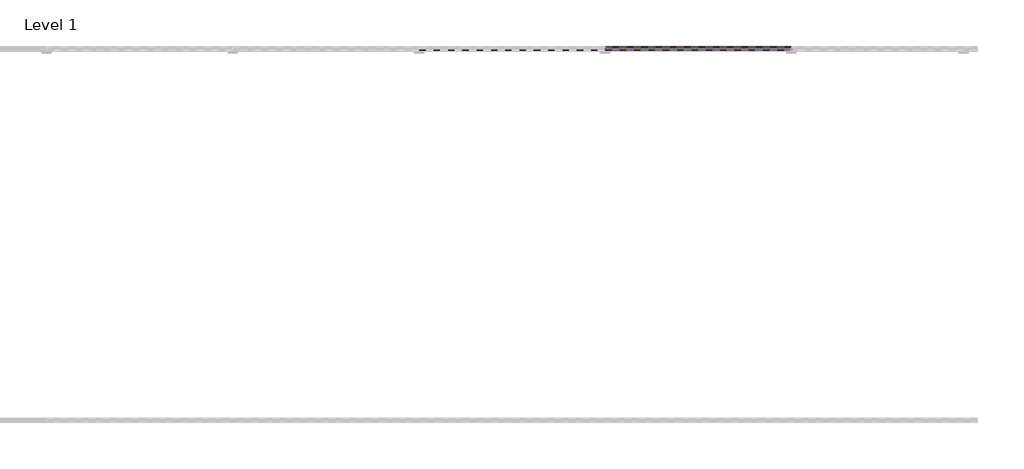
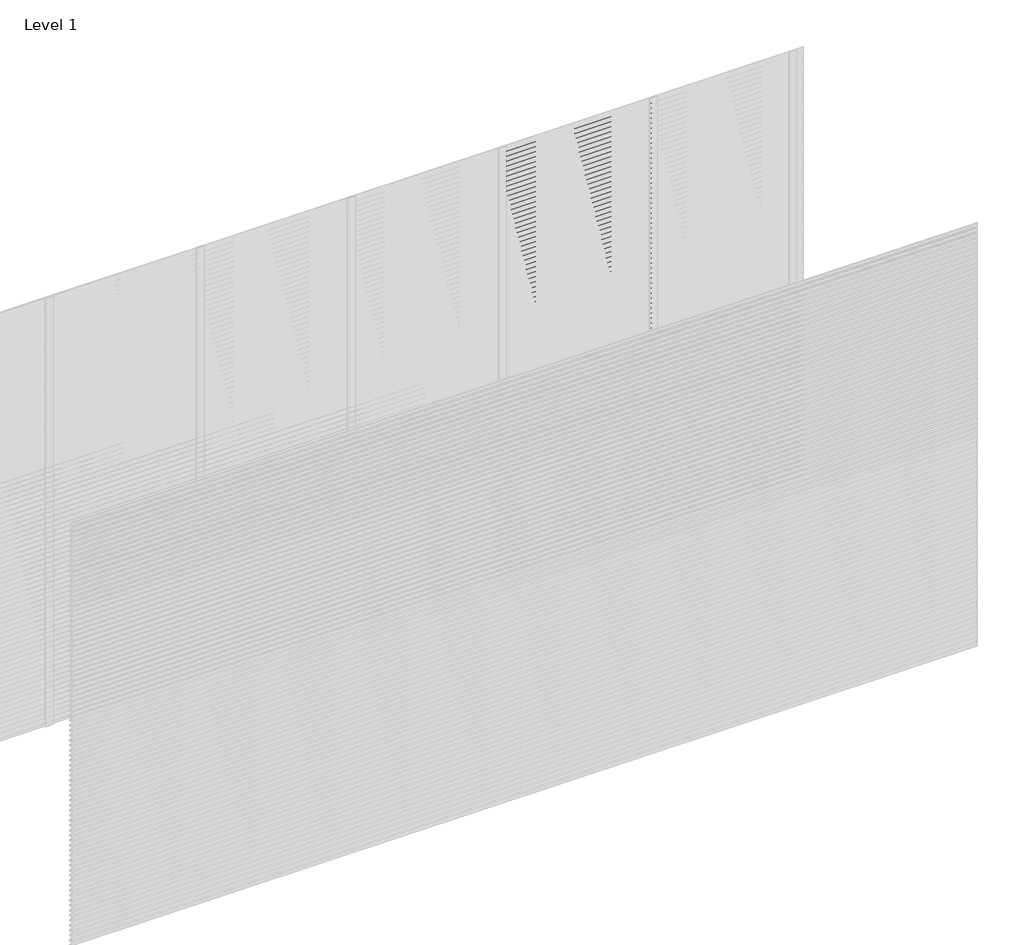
# One storey, part 24 of 25: 103 proxies.
"""IFC4 building model written with IfcOpenShell, lengths in millimetres."""

from ifc_helpers import new_model, si_unit, frame, origin, place, context, project, spatial, polyline, outline, extrude, element, save

model = new_model("IFC4")

# Units and contexts
model_context = context("Model", 3, world=origin())
ifc_project = project(units=[si_unit("LENGTHUNIT", "METRE", prefix="MILLI")], contexts=[model_context])

# Site, building, storey
site = spatial("IfcSite", under=ifc_project)
building = spatial("IfcBuilding", under=site)
storey = spatial("IfcBuildingStorey", under=building, Name="Level 1", Elevation=0.0)

# Proxies
placement = place(None, origin())
element("IfcBuildingElementProxy", 1, Name="Wall Sweeps", at=placement, inside=storey, context=model_context, shape_type="SweptSolid", body=[
    extrude(outline(polyline([(5.0, 1190.0), (5.0, 1178.942893), (24.0, 1163.0), (24.0, 1150.0), (3.0, 1167.6210923), (3.0, 1190.0), (5.0, 1190.0)])), frame((3000.0, 0.0, 0.0), z_axis=(1.0, 0.0, 0.0), x_axis=(0.0, 1.0, 0.0)), (0.0, 0.0, 1.0), 1000.0),
])
element("IfcBuildingElementProxy", 2, Name="Wall Sweeps", at=placement, inside=storey, context=model_context, shape_type="SweptSolid", body=[
    extrude(outline(polyline([(5.0, 1155.0), (5.0, 1143.942893), (24.0, 1128.0), (24.0, 1115.0), (3.0, 1132.6210923), (3.0, 1155.0), (5.0, 1155.0)])), frame((3000.0, 0.0, 0.0), z_axis=(1.0, 0.0, 0.0), x_axis=(0.0, 1.0, 0.0)), (0.0, 0.0, 1.0), 1000.0),
])
element("IfcBuildingElementProxy", 3, Name="Wall Sweeps", at=placement, inside=storey, context=model_context, shape_type="SweptSolid", body=[
    extrude(outline(polyline([(5.0, 1120.0), (5.0, 1108.942893), (24.0, 1093.0), (24.0, 1080.0), (3.0, 1097.6210923), (3.0, 1120.0), (5.0, 1120.0)])), frame((3000.0, 0.0, 0.0), z_axis=(1.0, 0.0, 0.0), x_axis=(0.0, 1.0, 0.0)), (0.0, 0.0, 1.0), 1000.0),
])
element("IfcBuildingElementProxy", 4, Name="Wall Sweeps", at=placement, inside=storey, context=model_context, shape_type="SweptSolid", body=[
    extrude(outline(polyline([(5.0, 1085.0), (5.0, 1073.942893), (24.0, 1058.0), (24.0, 1045.0), (3.0, 1062.6210923), (3.0, 1085.0), (5.0, 1085.0)])), frame((3000.0, 0.0, 0.0), z_axis=(1.0, 0.0, 0.0), x_axis=(0.0, 1.0, 0.0)), (0.0, 0.0, 1.0), 1000.0),
])
element("IfcBuildingElementProxy", 5, Name="Wall Sweeps", at=placement, inside=storey, context=model_context, shape_type="SweptSolid", body=[
    extrude(outline(polyline([(5.0, 1050.0), (5.0, 1038.942893), (24.0, 1023.0), (24.0, 1010.0), (3.0, 1027.6210923), (3.0, 1050.0), (5.0, 1050.0)])), frame((3000.0, 0.0, 0.0), z_axis=(1.0, 0.0, 0.0), x_axis=(0.0, 1.0, 0.0)), (0.0, 0.0, 1.0), 1000.0),
])
element("IfcBuildingElementProxy", 6, Name="Wall Sweeps", at=placement, inside=storey, context=model_context, shape_type="SweptSolid", body=[
    extrude(outline(polyline([(5.0, 1015.0), (5.0, 1003.942893), (24.0, 988.0), (24.0, 975.0), (3.0, 992.6210923), (3.0, 1015.0), (5.0, 1015.0)])), frame((3000.0, 0.0, 0.0), z_axis=(1.0, 0.0, 0.0), x_axis=(0.0, 1.0, 0.0)), (0.0, 0.0, 1.0), 1000.0),
])
element("IfcBuildingElementProxy", 7, Name="Wall Sweeps", at=placement, inside=storey, context=model_context, shape_type="SweptSolid", body=[
    extrude(outline(polyline([(5.0, 980.0), (5.0, 968.942893), (24.0, 953.0), (24.0, 940.0), (3.0, 957.6210923), (3.0, 980.0), (5.0, 980.0)])), frame((3000.0, 0.0, 0.0), z_axis=(1.0, 0.0, 0.0), x_axis=(0.0, 1.0, 0.0)), (0.0, 0.0, 1.0), 1000.0),
])
element("IfcBuildingElementProxy", 8, Name="Wall Sweeps", at=placement, inside=storey, context=model_context, shape_type="SweptSolid", body=[
    extrude(outline(polyline([(5.0, 945.0), (5.0, 933.942893), (24.0, 918.0), (24.0, 905.0), (3.0, 922.6210923), (3.0, 945.0), (5.0, 945.0)])), frame((3000.0, 0.0, 0.0), z_axis=(1.0, 0.0, 0.0), x_axis=(0.0, 1.0, 0.0)), (0.0, 0.0, 1.0), 1000.0),
])
element("IfcBuildingElementProxy", 9, Name="Wall Sweeps", at=placement, inside=storey, context=model_context, shape_type="SweptSolid", body=[
    extrude(outline(polyline([(5.0, 910.0), (5.0, 898.942893), (24.0, 883.0), (24.0, 870.0), (3.0, 887.6210923), (3.0, 910.0), (5.0, 910.0)])), frame((3000.0, 0.0, 0.0), z_axis=(1.0, 0.0, 0.0), x_axis=(0.0, 1.0, 0.0)), (0.0, 0.0, 1.0), 1000.0),
])
element("IfcBuildingElementProxy", 10, Name="Wall Sweeps", at=placement, inside=storey, context=model_context, shape_type="SweptSolid", body=[
    extrude(outline(polyline([(5.0, 875.0), (5.0, 863.942893), (24.0, 848.0), (24.0, 835.0), (3.0, 852.6210923), (3.0, 875.0), (5.0, 875.0)])), frame((3000.0, 0.0, 0.0), z_axis=(1.0, 0.0, 0.0), x_axis=(0.0, 1.0, 0.0)), (0.0, 0.0, 1.0), 1000.0),
])
element("IfcBuildingElementProxy", 11, Name="Wall Sweeps", at=placement, inside=storey, context=model_context, shape_type="SweptSolid", body=[
    extrude(outline(polyline([(5.0, 840.0), (5.0, 828.942893), (24.0, 813.0), (24.0, 800.0), (3.0, 817.6210923), (3.0, 840.0), (5.0, 840.0)])), frame((3000.0, 0.0, 0.0), z_axis=(1.0, 0.0, 0.0), x_axis=(0.0, 1.0, 0.0)), (0.0, 0.0, 1.0), 1000.0),
])
element("IfcBuildingElementProxy", 12, Name="Wall Sweeps", at=placement, inside=storey, context=model_context, shape_type="SweptSolid", body=[
    extrude(outline(polyline([(5.0, 805.0), (5.0, 793.942893), (24.0, 778.0), (24.0, 765.0), (3.0, 782.6210923), (3.0, 805.0), (5.0, 805.0)])), frame((3000.0, 0.0, 0.0), z_axis=(1.0, 0.0, 0.0), x_axis=(0.0, 1.0, 0.0)), (0.0, 0.0, 1.0), 1000.0),
])
element("IfcBuildingElementProxy", 13, Name="Wall Sweeps", at=placement, inside=storey, context=model_context, shape_type="SweptSolid", body=[
    extrude(outline(polyline([(5.0, 770.0), (5.0, 758.942893), (24.0, 743.0), (24.0, 730.0), (3.0, 747.6210923), (3.0, 770.0), (5.0, 770.0)])), frame((3000.0, 0.0, 0.0), z_axis=(1.0, 0.0, 0.0), x_axis=(0.0, 1.0, 0.0)), (0.0, 0.0, 1.0), 1000.0),
])
element("IfcBuildingElementProxy", 14, Name="Wall Sweeps", at=placement, inside=storey, context=model_context, shape_type="SweptSolid", body=[
    extrude(outline(polyline([(5.0, 735.0), (5.0, 723.942893), (24.0, 708.0), (24.0, 695.0), (3.0, 712.6210923), (3.0, 735.0), (5.0, 735.0)])), frame((3000.0, 0.0, 0.0), z_axis=(1.0, 0.0, 0.0), x_axis=(0.0, 1.0, 0.0)), (0.0, 0.0, 1.0), 1000.0),
])
element("IfcBuildingElementProxy", 15, Name="Wall Sweeps", at=placement, inside=storey, context=model_context, shape_type="SweptSolid", body=[
    extrude(outline(polyline([(5.0, 700.0), (5.0, 688.942893), (24.0, 673.0), (24.0, 660.0), (3.0, 677.6210923), (3.0, 700.0), (5.0, 700.0)])), frame((3000.0, 0.0, 0.0), z_axis=(1.0, 0.0, 0.0), x_axis=(0.0, 1.0, 0.0)), (0.0, 0.0, 1.0), 1000.0),
])
element("IfcBuildingElementProxy", 16, Name="Wall Sweeps", at=placement, inside=storey, context=model_context, shape_type="SweptSolid", body=[
    extrude(outline(polyline([(5.0, 665.0), (5.0, 653.942893), (24.0, 638.0), (24.0, 625.0), (3.0, 642.6210923), (3.0, 665.0), (5.0, 665.0)])), frame((3000.0, 0.0, 0.0), z_axis=(1.0, 0.0, 0.0), x_axis=(0.0, 1.0, 0.0)), (0.0, 0.0, 1.0), 1000.0),
])
element("IfcBuildingElementProxy", 17, Name="Wall Sweeps", at=placement, inside=storey, context=model_context, shape_type="SweptSolid", body=[
    extrude(outline(polyline([(5.0, 630.0), (5.0, 618.942893), (24.0, 603.0), (24.0, 590.0), (3.0, 607.6210923), (3.0, 630.0), (5.0, 630.0)])), frame((3000.0, 0.0, 0.0), z_axis=(1.0, 0.0, 0.0), x_axis=(0.0, 1.0, 0.0)), (0.0, 0.0, 1.0), 1000.0),
])
element("IfcBuildingElementProxy", 18, Name="Wall Sweeps", at=placement, inside=storey, context=model_context, shape_type="SweptSolid", body=[
    extrude(outline(polyline([(5.0, 595.0), (5.0, 583.942893), (24.0, 568.0), (24.0, 555.0), (3.0, 572.6210923), (3.0, 595.0), (5.0, 595.0)])), frame((3000.0, 0.0, 0.0), z_axis=(1.0, 0.0, 0.0), x_axis=(0.0, 1.0, 0.0)), (0.0, 0.0, 1.0), 1000.0),
])
element("IfcBuildingElementProxy", 19, Name="Wall Sweeps", at=placement, inside=storey, context=model_context, shape_type="SweptSolid", body=[
    extrude(outline(polyline([(5.0, 560.0), (5.0, 548.942893), (24.0, 533.0), (24.0, 520.0), (3.0, 537.6210923), (3.0, 560.0), (5.0, 560.0)])), frame((3000.0, 0.0, 0.0), z_axis=(1.0, 0.0, 0.0), x_axis=(0.0, 1.0, 0.0)), (0.0, 0.0, 1.0), 1000.0),
])
element("IfcBuildingElementProxy", 20, Name="Wall Sweeps", at=placement, inside=storey, context=model_context, shape_type="SweptSolid", body=[
    extrude(outline(polyline([(5.0, 525.0), (5.0, 513.942893), (24.0, 498.0), (24.0, 485.0), (3.0, 502.6210923), (3.0, 525.0), (5.0, 525.0)])), frame((3000.0, 0.0, 0.0), z_axis=(1.0, 0.0, 0.0), x_axis=(0.0, 1.0, 0.0)), (0.0, 0.0, 1.0), 1000.0),
])
element("IfcBuildingElementProxy", 21, Name="Wall Sweeps", at=placement, inside=storey, context=model_context, shape_type="SweptSolid", body=[
    extrude(outline(polyline([(5.0, 490.0), (5.0, 478.942893), (24.0, 463.0), (24.0, 450.0), (3.0, 467.6210923), (3.0, 490.0), (5.0, 490.0)])), frame((3000.0, 0.0, 0.0), z_axis=(1.0, 0.0, 0.0), x_axis=(0.0, 1.0, 0.0)), (0.0, 0.0, 1.0), 1000.0),
])
element("IfcBuildingElementProxy", 22, Name="Wall Sweeps", at=placement, inside=storey, context=model_context, shape_type="SweptSolid", body=[
    extrude(outline(polyline([(5.0, 455.0), (5.0, 443.942893), (24.0, 428.0), (24.0, 415.0), (3.0, 432.6210923), (3.0, 455.0), (5.0, 455.0)])), frame((3000.0, 0.0, 0.0), z_axis=(1.0, 0.0, 0.0), x_axis=(0.0, 1.0, 0.0)), (0.0, 0.0, 1.0), 1000.0),
])
element("IfcBuildingElementProxy", 23, Name="Wall Sweeps", at=placement, inside=storey, context=model_context, shape_type="SweptSolid", body=[
    extrude(outline(polyline([(5.0, 420.0), (5.0, 408.942893), (24.0, 393.0), (24.0, 380.0), (3.0, 397.6210923), (3.0, 420.0), (5.0, 420.0)])), frame((3000.0, 0.0, 0.0), z_axis=(1.0, 0.0, 0.0), x_axis=(0.0, 1.0, 0.0)), (0.0, 0.0, 1.0), 1000.0),
])
element("IfcBuildingElementProxy", 24, Name="Wall Sweeps", at=placement, inside=storey, context=model_context, shape_type="SweptSolid", body=[
    extrude(outline(polyline([(5.0, 385.0), (5.0, 373.942893), (24.0, 358.0), (24.0, 345.0), (3.0, 362.6210923), (3.0, 385.0), (5.0, 385.0)])), frame((3000.0, 0.0, 0.0), z_axis=(1.0, 0.0, 0.0), x_axis=(0.0, 1.0, 0.0)), (0.0, 0.0, 1.0), 1000.0),
])
element("IfcBuildingElementProxy", 25, Name="Wall Sweeps", at=placement, inside=storey, context=model_context, shape_type="SweptSolid", body=[
    extrude(outline(polyline([(5.0, 350.0), (5.0, 338.942893), (24.0, 323.0), (24.0, 310.0), (3.0, 327.6210923), (3.0, 350.0), (5.0, 350.0)])), frame((3000.0, 0.0, 0.0), z_axis=(1.0, 0.0, 0.0), x_axis=(0.0, 1.0, 0.0)), (0.0, 0.0, 1.0), 1000.0),
])
element("IfcBuildingElementProxy", 26, Name="Wall Sweeps", at=placement, inside=storey, context=model_context, shape_type="SweptSolid", body=[
    extrude(outline(polyline([(5.0, 315.0), (5.0, 303.942893), (24.0, 288.0), (24.0, 275.0), (3.0, 292.6210923), (3.0, 315.0), (5.0, 315.0)])), frame((3000.0, 0.0, 0.0), z_axis=(1.0, 0.0, 0.0), x_axis=(0.0, 1.0, 0.0)), (0.0, 0.0, 1.0), 1000.0),
])
element("IfcBuildingElementProxy", 27, Name="Wall Sweeps", at=placement, inside=storey, context=model_context, shape_type="SweptSolid", body=[
    extrude(outline(polyline([(5.0, 280.0), (5.0, 268.942893), (24.0, 253.0), (24.0, 240.0), (3.0, 257.6210923), (3.0, 280.0), (5.0, 280.0)])), frame((3000.0, 0.0, 0.0), z_axis=(1.0, 0.0, 0.0), x_axis=(0.0, 1.0, 0.0)), (0.0, 0.0, 1.0), 1000.0),
])
element("IfcBuildingElementProxy", 28, Name="Wall Sweeps", at=placement, inside=storey, context=model_context, shape_type="SweptSolid", body=[
    extrude(outline(polyline([(5.0, 245.0), (5.0, 233.942893), (24.0, 218.0), (24.0, 205.0), (3.0, 222.6210923), (3.0, 245.0), (5.0, 245.0)])), frame((3000.0, 0.0, 0.0), z_axis=(1.0, 0.0, 0.0), x_axis=(0.0, 1.0, 0.0)), (0.0, 0.0, 1.0), 1000.0),
])
element("IfcBuildingElementProxy", 29, Name="Wall Sweeps", at=placement, inside=storey, context=model_context, shape_type="SweptSolid", body=[
    extrude(outline(polyline([(5.0, 210.0), (5.0, 198.942893), (24.0, 183.0), (24.0, 170.0), (3.0, 187.6210923), (3.0, 210.0), (5.0, 210.0)])), frame((3000.0, 0.0, 0.0), z_axis=(1.0, 0.0, 0.0), x_axis=(0.0, 1.0, 0.0)), (0.0, 0.0, 1.0), 1000.0),
])
element("IfcBuildingElementProxy", 30, Name="Wall Sweeps", at=placement, inside=storey, context=model_context, shape_type="SweptSolid", body=[
    extrude(outline(polyline([(5.0, 175.0), (5.0, 163.942893), (24.0, 148.0), (24.0, 135.0), (3.0, 152.6210923), (3.0, 175.0), (5.0, 175.0)])), frame((3000.0, 0.0, 0.0), z_axis=(1.0, 0.0, 0.0), x_axis=(0.0, 1.0, 0.0)), (0.0, 0.0, 1.0), 1000.0),
])
element("IfcBuildingElementProxy", 31, Name="Wall Sweeps", at=placement, inside=storey, context=model_context, shape_type="SweptSolid", body=[
    extrude(outline(polyline([(5.0, 140.0), (5.0, 128.942893), (24.0, 113.0), (24.0, 100.0), (3.0, 117.6210923), (3.0, 140.0), (5.0, 140.0)])), frame((3000.0, 0.0, 0.0), z_axis=(1.0, 0.0, 0.0), x_axis=(0.0, 1.0, 0.0)), (0.0, 0.0, 1.0), 1000.0),
])
element("IfcBuildingElementProxy", 32, Name="Wall Sweeps", at=placement, inside=storey, context=model_context, shape_type="SweptSolid", body=[
    extrude(outline(polyline([(5.0, 105.0), (5.0, 93.942893), (24.0, 78.0), (24.0, 65.0), (3.0, 82.6210923), (3.0, 105.0), (5.0, 105.0)])), frame((3000.0, 0.0, 0.0), z_axis=(1.0, 0.0, 0.0), x_axis=(0.0, 1.0, 0.0)), (0.0, 0.0, 1.0), 1000.0),
])
element("IfcBuildingElementProxy", 33, Name="Wall Sweeps", at=placement, inside=storey, context=model_context, shape_type="SweptSolid", body=[
    extrude(outline(polyline([(5.0, 70.0), (5.0, 58.942893), (24.0, 43.0), (24.0, 30.0), (3.0, 47.6210923), (3.0, 70.0), (5.0, 70.0)])), frame((3000.0, 0.0, 0.0), z_axis=(1.0, 0.0, 0.0), x_axis=(0.0, 1.0, 0.0)), (0.0, 0.0, 1.0), 1000.0),
])
element("IfcBuildingElementProxy", 34, Name="Wall Sweeps", at=placement, inside=storey, context=model_context, shape_type="SweptSolid", body=[
    extrude(outline(polyline([(5.0, 35.0), (5.0, 23.942893), (24.0, 8.0), (24.0, -5.0), (3.0, 12.6210923), (3.0, 35.0), (5.0, 35.0)])), frame((3000.0, 0.0, 0.0), z_axis=(1.0, 0.0, 0.0), x_axis=(0.0, 1.0, 0.0)), (0.0, 0.0, 1.0), 1000.0),
])
element("IfcBuildingElementProxy", 35, Name="Wall Sweeps", at=placement, inside=storey, context=model_context, shape_type="SweptSolid", body=[
    extrude(outline(polyline([(5.0, 2975.0), (5.0, 2963.942893), (24.0, 2948.0), (24.0, 2935.0), (3.0, 2952.6210923), (3.0, 2975.0), (5.0, 2975.0)])), frame((4000.0, 0.0, 0.0), z_axis=(1.0, 0.0, 0.0), x_axis=(0.0, 1.0, 0.0)), (0.0, 0.0, 1.0), 1000.0),
])
element("IfcBuildingElementProxy", 36, Name="Wall Sweeps", at=placement, inside=storey, context=model_context, shape_type="SweptSolid", body=[
    extrude(outline(polyline([(5.0, 2940.0), (5.0, 2928.942893), (24.0, 2913.0), (24.0, 2900.0), (3.0, 2917.6210923), (3.0, 2940.0), (5.0, 2940.0)])), frame((4000.0, 0.0, 0.0), z_axis=(1.0, 0.0, 0.0), x_axis=(0.0, 1.0, 0.0)), (0.0, 0.0, 1.0), 1000.0),
])
element("IfcBuildingElementProxy", 37, Name="Wall Sweeps", at=placement, inside=storey, context=model_context, shape_type="SweptSolid", body=[
    extrude(outline(polyline([(5.0, 2905.0), (5.0, 2893.942893), (24.0, 2878.0), (24.0, 2865.0), (3.0, 2882.6210923), (3.0, 2905.0), (5.0, 2905.0)])), frame((4000.0, 0.0, 0.0), z_axis=(1.0, 0.0, 0.0), x_axis=(0.0, 1.0, 0.0)), (0.0, 0.0, 1.0), 1000.0),
])
element("IfcBuildingElementProxy", 38, Name="Wall Sweeps", at=placement, inside=storey, context=model_context, shape_type="SweptSolid", body=[
    extrude(outline(polyline([(5.0, 2870.0), (5.0, 2858.942893), (24.0, 2843.0), (24.0, 2830.0), (3.0, 2847.6210923), (3.0, 2870.0), (5.0, 2870.0)])), frame((4000.0, 0.0, 0.0), z_axis=(1.0, 0.0, 0.0), x_axis=(0.0, 1.0, 0.0)), (0.0, 0.0, 1.0), 1000.0),
])
element("IfcBuildingElementProxy", 39, Name="Wall Sweeps", at=placement, inside=storey, context=model_context, shape_type="SweptSolid", body=[
    extrude(outline(polyline([(5.0, 2835.0), (5.0, 2823.942893), (24.0, 2808.0), (24.0, 2795.0), (3.0, 2812.6210923), (3.0, 2835.0), (5.0, 2835.0)])), frame((4000.0, 0.0, 0.0), z_axis=(1.0, 0.0, 0.0), x_axis=(0.0, 1.0, 0.0)), (0.0, 0.0, 1.0), 1000.0),
])
element("IfcBuildingElementProxy", 40, Name="Wall Sweeps", at=placement, inside=storey, context=model_context, shape_type="SweptSolid", body=[
    extrude(outline(polyline([(5.0, 2800.0), (5.0, 2788.942893), (24.0, 2773.0), (24.0, 2760.0), (3.0, 2777.6210923), (3.0, 2800.0), (5.0, 2800.0)])), frame((4000.0, 0.0, 0.0), z_axis=(1.0, 0.0, 0.0), x_axis=(0.0, 1.0, 0.0)), (0.0, 0.0, 1.0), 1000.0),
])
element("IfcBuildingElementProxy", 41, Name="Wall Sweeps", at=placement, inside=storey, context=model_context, shape_type="SweptSolid", body=[
    extrude(outline(polyline([(5.0, 2765.0), (5.0, 2753.942893), (24.0, 2738.0), (24.0, 2725.0), (3.0, 2742.6210923), (3.0, 2765.0), (5.0, 2765.0)])), frame((4000.0, 0.0, 0.0), z_axis=(1.0, 0.0, 0.0), x_axis=(0.0, 1.0, 0.0)), (0.0, 0.0, 1.0), 1000.0),
])
element("IfcBuildingElementProxy", 42, Name="Wall Sweeps", at=placement, inside=storey, context=model_context, shape_type="SweptSolid", body=[
    extrude(outline(polyline([(5.0, 2730.0), (5.0, 2718.942893), (24.0, 2703.0), (24.0, 2690.0), (3.0, 2707.6210923), (3.0, 2730.0), (5.0, 2730.0)])), frame((4000.0, 0.0, 0.0), z_axis=(1.0, 0.0, 0.0), x_axis=(0.0, 1.0, 0.0)), (0.0, 0.0, 1.0), 1000.0),
])
element("IfcBuildingElementProxy", 43, Name="Wall Sweeps", at=placement, inside=storey, context=model_context, shape_type="SweptSolid", body=[
    extrude(outline(polyline([(5.0, 2695.0), (5.0, 2683.942893), (24.0, 2668.0), (24.0, 2655.0), (3.0, 2672.6210923), (3.0, 2695.0), (5.0, 2695.0)])), frame((4000.0, 0.0, 0.0), z_axis=(1.0, 0.0, 0.0), x_axis=(0.0, 1.0, 0.0)), (0.0, 0.0, 1.0), 1000.0),
])
element("IfcBuildingElementProxy", 44, Name="Wall Sweeps", at=placement, inside=storey, context=model_context, shape_type="SweptSolid", body=[
    extrude(outline(polyline([(5.0, 2660.0), (5.0, 2648.942893), (24.0, 2633.0), (24.0, 2620.0), (3.0, 2637.6210923), (3.0, 2660.0), (5.0, 2660.0)])), frame((4000.0, 0.0, 0.0), z_axis=(1.0, 0.0, 0.0), x_axis=(0.0, 1.0, 0.0)), (0.0, 0.0, 1.0), 1000.0),
])
element("IfcBuildingElementProxy", 45, Name="Wall Sweeps", at=placement, inside=storey, context=model_context, shape_type="SweptSolid", body=[
    extrude(outline(polyline([(5.0, 2625.0), (5.0, 2613.942893), (24.0, 2598.0), (24.0, 2585.0), (3.0, 2602.6210923), (3.0, 2625.0), (5.0, 2625.0)])), frame((4000.0, 0.0, 0.0), z_axis=(1.0, 0.0, 0.0), x_axis=(0.0, 1.0, 0.0)), (0.0, 0.0, 1.0), 1000.0),
])
element("IfcBuildingElementProxy", 46, Name="Wall Sweeps", at=placement, inside=storey, context=model_context, shape_type="SweptSolid", body=[
    extrude(outline(polyline([(5.0, 2590.0), (5.0, 2578.942893), (24.0, 2563.0), (24.0, 2550.0), (3.0, 2567.6210923), (3.0, 2590.0), (5.0, 2590.0)])), frame((4000.0, 0.0, 0.0), z_axis=(1.0, 0.0, 0.0), x_axis=(0.0, 1.0, 0.0)), (0.0, 0.0, 1.0), 1000.0),
])
element("IfcBuildingElementProxy", 47, Name="Wall Sweeps", at=placement, inside=storey, context=model_context, shape_type="SweptSolid", body=[
    extrude(outline(polyline([(5.0, 2555.0), (5.0, 2543.942893), (24.0, 2528.0), (24.0, 2515.0), (3.0, 2532.6210923), (3.0, 2555.0), (5.0, 2555.0)])), frame((4000.0, 0.0, 0.0), z_axis=(1.0, 0.0, 0.0), x_axis=(0.0, 1.0, 0.0)), (0.0, 0.0, 1.0), 1000.0),
])
element("IfcBuildingElementProxy", 48, Name="Wall Sweeps", at=placement, inside=storey, context=model_context, shape_type="SweptSolid", body=[
    extrude(outline(polyline([(5.0, 2520.0), (5.0, 2508.942893), (24.0, 2493.0), (24.0, 2480.0), (3.0, 2497.6210923), (3.0, 2520.0), (5.0, 2520.0)])), frame((4000.0, 0.0, 0.0), z_axis=(1.0, 0.0, 0.0), x_axis=(0.0, 1.0, 0.0)), (0.0, 0.0, 1.0), 1000.0),
])
element("IfcBuildingElementProxy", 49, Name="Wall Sweeps", at=placement, inside=storey, context=model_context, shape_type="SweptSolid", body=[
    extrude(outline(polyline([(5.0, 2485.0), (5.0, 2473.942893), (24.0, 2458.0), (24.0, 2445.0), (3.0, 2462.6210923), (3.0, 2485.0), (5.0, 2485.0)])), frame((4000.0, 0.0, 0.0), z_axis=(1.0, 0.0, 0.0), x_axis=(0.0, 1.0, 0.0)), (0.0, 0.0, 1.0), 1000.0),
])
element("IfcBuildingElementProxy", 50, Name="Wall Sweeps", at=placement, inside=storey, context=model_context, shape_type="SweptSolid", body=[
    extrude(outline(polyline([(5.0, 2450.0), (5.0, 2438.942893), (24.0, 2423.0), (24.0, 2410.0), (3.0, 2427.6210923), (3.0, 2450.0), (5.0, 2450.0)])), frame((4000.0, 0.0, 0.0), z_axis=(1.0, 0.0, 0.0), x_axis=(0.0, 1.0, 0.0)), (0.0, 0.0, 1.0), 1000.0),
])
element("IfcBuildingElementProxy", 51, Name="Wall Sweeps", at=placement, inside=storey, context=model_context, shape_type="SweptSolid", body=[
    extrude(outline(polyline([(5.0, 2415.0), (5.0, 2403.942893), (24.0, 2388.0), (24.0, 2375.0), (3.0, 2392.6210923), (3.0, 2415.0), (5.0, 2415.0)])), frame((4000.0, 0.0, 0.0), z_axis=(1.0, 0.0, 0.0), x_axis=(0.0, 1.0, 0.0)), (0.0, 0.0, 1.0), 1000.0),
])
element("IfcBuildingElementProxy", 52, Name="Wall Sweeps", at=placement, inside=storey, context=model_context, shape_type="SweptSolid", body=[
    extrude(outline(polyline([(5.0, 2380.0), (5.0, 2368.942893), (24.0, 2353.0), (24.0, 2340.0), (3.0, 2357.6210923), (3.0, 2380.0), (5.0, 2380.0)])), frame((4000.0, 0.0, 0.0), z_axis=(1.0, 0.0, 0.0), x_axis=(0.0, 1.0, 0.0)), (0.0, 0.0, 1.0), 1000.0),
])
element("IfcBuildingElementProxy", 53, Name="Wall Sweeps", at=placement, inside=storey, context=model_context, shape_type="SweptSolid", body=[
    extrude(outline(polyline([(5.0, 2345.0), (5.0, 2333.942893), (24.0, 2318.0), (24.0, 2305.0), (3.0, 2322.6210923), (3.0, 2345.0), (5.0, 2345.0)])), frame((4000.0, 0.0, 0.0), z_axis=(1.0, 0.0, 0.0), x_axis=(0.0, 1.0, 0.0)), (0.0, 0.0, 1.0), 1000.0),
])
element("IfcBuildingElementProxy", 54, Name="Wall Sweeps", at=placement, inside=storey, context=model_context, shape_type="SweptSolid", body=[
    extrude(outline(polyline([(5.0, 2310.0), (5.0, 2298.942893), (24.0, 2283.0), (24.0, 2270.0), (3.0, 2287.6210923), (3.0, 2310.0), (5.0, 2310.0)])), frame((4000.0, 0.0, 0.0), z_axis=(1.0, 0.0, 0.0), x_axis=(0.0, 1.0, 0.0)), (0.0, 0.0, 1.0), 1000.0),
])
element("IfcBuildingElementProxy", 55, Name="Wall Sweeps", at=placement, inside=storey, context=model_context, shape_type="SweptSolid", body=[
    extrude(outline(polyline([(5.0, 2275.0), (5.0, 2263.942893), (24.0, 2248.0), (24.0, 2235.0), (3.0, 2252.6210923), (3.0, 2275.0), (5.0, 2275.0)])), frame((4000.0, 0.0, 0.0), z_axis=(1.0, 0.0, 0.0), x_axis=(0.0, 1.0, 0.0)), (0.0, 0.0, 1.0), 1000.0),
])
element("IfcBuildingElementProxy", 56, Name="Wall Sweeps", at=placement, inside=storey, context=model_context, shape_type="SweptSolid", body=[
    extrude(outline(polyline([(5.0, 2240.0), (5.0, 2228.942893), (24.0, 2213.0), (24.0, 2200.0), (3.0, 2217.6210923), (3.0, 2240.0), (5.0, 2240.0)])), frame((4000.0, 0.0, 0.0), z_axis=(1.0, 0.0, 0.0), x_axis=(0.0, 1.0, 0.0)), (0.0, 0.0, 1.0), 1000.0),
])
element("IfcBuildingElementProxy", 57, Name="Wall Sweeps", at=placement, inside=storey, context=model_context, shape_type="SweptSolid", body=[
    extrude(outline(polyline([(5.0, 2205.0), (5.0, 2193.942893), (24.0, 2178.0), (24.0, 2165.0), (3.0, 2182.6210923), (3.0, 2205.0), (5.0, 2205.0)])), frame((4000.0, 0.0, 0.0), z_axis=(1.0, 0.0, 0.0), x_axis=(0.0, 1.0, 0.0)), (0.0, 0.0, 1.0), 1000.0),
])
element("IfcBuildingElementProxy", 58, Name="Wall Sweeps", at=placement, inside=storey, context=model_context, shape_type="SweptSolid", body=[
    extrude(outline(polyline([(5.0, 2170.0), (5.0, 2158.942893), (24.0, 2143.0), (24.0, 2130.0), (3.0, 2147.6210923), (3.0, 2170.0), (5.0, 2170.0)])), frame((4000.0, 0.0, 0.0), z_axis=(1.0, 0.0, 0.0), x_axis=(0.0, 1.0, 0.0)), (0.0, 0.0, 1.0), 1000.0),
])
element("IfcBuildingElementProxy", 59, Name="Wall Sweeps", at=placement, inside=storey, context=model_context, shape_type="SweptSolid", body=[
    extrude(outline(polyline([(5.0, 2135.0), (5.0, 2123.942893), (24.0, 2108.0), (24.0, 2095.0), (3.0, 2112.6210923), (3.0, 2135.0), (5.0, 2135.0)])), frame((4000.0, 0.0, 0.0), z_axis=(1.0, 0.0, 0.0), x_axis=(0.0, 1.0, 0.0)), (0.0, 0.0, 1.0), 1000.0),
])
element("IfcBuildingElementProxy", 60, Name="Wall Sweeps", at=placement, inside=storey, context=model_context, shape_type="SweptSolid", body=[
    extrude(outline(polyline([(5.0, 2100.0), (5.0, 2088.942893), (24.0, 2073.0), (24.0, 2060.0), (3.0, 2077.6210923), (3.0, 2100.0), (5.0, 2100.0)])), frame((4000.0, 0.0, 0.0), z_axis=(1.0, 0.0, 0.0), x_axis=(0.0, 1.0, 0.0)), (0.0, 0.0, 1.0), 1000.0),
])
element("IfcBuildingElementProxy", 61, Name="Wall Sweeps", at=placement, inside=storey, context=model_context, shape_type="SweptSolid", body=[
    extrude(outline(polyline([(5.0, 2065.0), (5.0, 2053.942893), (24.0, 2038.0), (24.0, 2025.0), (3.0, 2042.6210923), (3.0, 2065.0), (5.0, 2065.0)])), frame((4000.0, 0.0, 0.0), z_axis=(1.0, 0.0, 0.0), x_axis=(0.0, 1.0, 0.0)), (0.0, 0.0, 1.0), 1000.0),
])
element("IfcBuildingElementProxy", 62, Name="Wall Sweeps", at=placement, inside=storey, context=model_context, shape_type="SweptSolid", body=[
    extrude(outline(polyline([(5.0, 2030.0), (5.0, 2018.942893), (24.0, 2003.0), (24.0, 1990.0), (3.0, 2007.6210923), (3.0, 2030.0), (5.0, 2030.0)])), frame((4000.0, 0.0, 0.0), z_axis=(1.0, 0.0, 0.0), x_axis=(0.0, 1.0, 0.0)), (0.0, 0.0, 1.0), 1000.0),
])
element("IfcBuildingElementProxy", 63, Name="Wall Sweeps", at=placement, inside=storey, context=model_context, shape_type="SweptSolid", body=[
    extrude(outline(polyline([(5.0, 1995.0), (5.0, 1983.942893), (24.0, 1968.0), (24.0, 1955.0), (3.0, 1972.6210923), (3.0, 1995.0), (5.0, 1995.0)])), frame((4000.0, 0.0, 0.0), z_axis=(1.0, 0.0, 0.0), x_axis=(0.0, 1.0, 0.0)), (0.0, 0.0, 1.0), 1000.0),
])
element("IfcBuildingElementProxy", 64, Name="Wall Sweeps", at=placement, inside=storey, context=model_context, shape_type="SweptSolid", body=[
    extrude(outline(polyline([(5.0, 1960.0), (5.0, 1948.942893), (24.0, 1933.0), (24.0, 1920.0), (3.0, 1937.6210923), (3.0, 1960.0), (5.0, 1960.0)])), frame((4000.0, 0.0, 0.0), z_axis=(1.0, 0.0, 0.0), x_axis=(0.0, 1.0, 0.0)), (0.0, 0.0, 1.0), 1000.0),
])
element("IfcBuildingElementProxy", 65, Name="Wall Sweeps", at=placement, inside=storey, context=model_context, shape_type="SweptSolid", body=[
    extrude(outline(polyline([(5.0, 1925.0), (5.0, 1913.942893), (24.0, 1898.0), (24.0, 1885.0), (3.0, 1902.6210923), (3.0, 1925.0), (5.0, 1925.0)])), frame((4000.0, 0.0, 0.0), z_axis=(1.0, 0.0, 0.0), x_axis=(0.0, 1.0, 0.0)), (0.0, 0.0, 1.0), 1000.0),
])
element("IfcBuildingElementProxy", 66, Name="Wall Sweeps", at=placement, inside=storey, context=model_context, shape_type="SweptSolid", body=[
    extrude(outline(polyline([(5.0, 1890.0), (5.0, 1878.942893), (24.0, 1863.0), (24.0, 1850.0), (3.0, 1867.6210923), (3.0, 1890.0), (5.0, 1890.0)])), frame((4000.0, 0.0, 0.0), z_axis=(1.0, 0.0, 0.0), x_axis=(0.0, 1.0, 0.0)), (0.0, 0.0, 1.0), 1000.0),
])
element("IfcBuildingElementProxy", 67, Name="Wall Sweeps", at=placement, inside=storey, context=model_context, shape_type="SweptSolid", body=[
    extrude(outline(polyline([(5.0, 1855.0), (5.0, 1843.942893), (24.0, 1828.0), (24.0, 1815.0), (3.0, 1832.6210923), (3.0, 1855.0), (5.0, 1855.0)])), frame((4000.0, 0.0, 0.0), z_axis=(1.0, 0.0, 0.0), x_axis=(0.0, 1.0, 0.0)), (0.0, 0.0, 1.0), 1000.0),
])
element("IfcBuildingElementProxy", 68, Name="Wall Sweeps", at=placement, inside=storey, context=model_context, shape_type="SweptSolid", body=[
    extrude(outline(polyline([(5.0, 1820.0), (5.0, 1808.942893), (24.0, 1793.0), (24.0, 1780.0), (3.0, 1797.6210923), (3.0, 1820.0), (5.0, 1820.0)])), frame((4000.0, 0.0, 0.0), z_axis=(1.0, 0.0, 0.0), x_axis=(0.0, 1.0, 0.0)), (0.0, 0.0, 1.0), 1000.0),
])
element("IfcBuildingElementProxy", 69, Name="Wall Sweeps", at=placement, inside=storey, context=model_context, shape_type="SweptSolid", body=[
    extrude(outline(polyline([(5.0, 1785.0), (5.0, 1773.942893), (24.0, 1758.0), (24.0, 1745.0), (3.0, 1762.6210923), (3.0, 1785.0), (5.0, 1785.0)])), frame((4000.0, 0.0, 0.0), z_axis=(1.0, 0.0, 0.0), x_axis=(0.0, 1.0, 0.0)), (0.0, 0.0, 1.0), 1000.0),
])
element("IfcBuildingElementProxy", 70, Name="Wall Sweeps", at=placement, inside=storey, context=model_context, shape_type="SweptSolid", body=[
    extrude(outline(polyline([(5.0, 1750.0), (5.0, 1738.942893), (24.0, 1723.0), (24.0, 1710.0), (3.0, 1727.6210923), (3.0, 1750.0), (5.0, 1750.0)])), frame((4000.0, 0.0, 0.0), z_axis=(1.0, 0.0, 0.0), x_axis=(0.0, 1.0, 0.0)), (0.0, 0.0, 1.0), 1000.0),
])
element("IfcBuildingElementProxy", 71, Name="Wall Sweeps", at=placement, inside=storey, context=model_context, shape_type="SweptSolid", body=[
    extrude(outline(polyline([(5.0, 1715.0), (5.0, 1703.942893), (24.0, 1688.0), (24.0, 1675.0), (3.0, 1692.6210923), (3.0, 1715.0), (5.0, 1715.0)])), frame((4000.0, 0.0, 0.0), z_axis=(1.0, 0.0, 0.0), x_axis=(0.0, 1.0, 0.0)), (0.0, 0.0, 1.0), 1000.0),
])
element("IfcBuildingElementProxy", 72, Name="Wall Sweeps", at=placement, inside=storey, context=model_context, shape_type="SweptSolid", body=[
    extrude(outline(polyline([(5.0, 1680.0), (5.0, 1668.942893), (24.0, 1653.0), (24.0, 1640.0), (3.0, 1657.6210923), (3.0, 1680.0), (5.0, 1680.0)])), frame((4000.0, 0.0, 0.0), z_axis=(1.0, 0.0, 0.0), x_axis=(0.0, 1.0, 0.0)), (0.0, 0.0, 1.0), 1000.0),
])
element("IfcBuildingElementProxy", 73, Name="Wall Sweeps", at=placement, inside=storey, context=model_context, shape_type="SweptSolid", body=[
    extrude(outline(polyline([(5.0, 1645.0), (5.0, 1633.942893), (24.0, 1618.0), (24.0, 1605.0), (3.0, 1622.6210923), (3.0, 1645.0), (5.0, 1645.0)])), frame((4000.0, 0.0, 0.0), z_axis=(1.0, 0.0, 0.0), x_axis=(0.0, 1.0, 0.0)), (0.0, 0.0, 1.0), 1000.0),
])
element("IfcBuildingElementProxy", 74, Name="Wall Sweeps", at=placement, inside=storey, context=model_context, shape_type="SweptSolid", body=[
    extrude(outline(polyline([(5.0, 1610.0), (5.0, 1598.942893), (24.0, 1583.0), (24.0, 1570.0), (3.0, 1587.6210923), (3.0, 1610.0), (5.0, 1610.0)])), frame((4000.0, 0.0, 0.0), z_axis=(1.0, 0.0, 0.0), x_axis=(0.0, 1.0, 0.0)), (0.0, 0.0, 1.0), 1000.0),
])
element("IfcBuildingElementProxy", 75, Name="Wall Sweeps", at=placement, inside=storey, context=model_context, shape_type="SweptSolid", body=[
    extrude(outline(polyline([(5.0, 1575.0), (5.0, 1563.942893), (24.0, 1548.0), (24.0, 1535.0), (3.0, 1552.6210923), (3.0, 1575.0), (5.0, 1575.0)])), frame((4000.0, 0.0, 0.0), z_axis=(1.0, 0.0, 0.0), x_axis=(0.0, 1.0, 0.0)), (0.0, 0.0, 1.0), 1000.0),
])
element("IfcBuildingElementProxy", 76, Name="Wall Sweeps", at=placement, inside=storey, context=model_context, shape_type="SweptSolid", body=[
    extrude(outline(polyline([(5.0, 1540.0), (5.0, 1528.942893), (24.0, 1513.0), (24.0, 1500.0), (3.0, 1517.6210923), (3.0, 1540.0), (5.0, 1540.0)])), frame((4000.0, 0.0, 0.0), z_axis=(1.0, 0.0, 0.0), x_axis=(0.0, 1.0, 0.0)), (0.0, 0.0, 1.0), 1000.0),
])
element("IfcBuildingElementProxy", 77, Name="Wall Sweeps", at=placement, inside=storey, context=model_context, shape_type="SweptSolid", body=[
    extrude(outline(polyline([(5.0, 1505.0), (5.0, 1493.942893), (24.0, 1478.0), (24.0, 1465.0), (3.0, 1482.6210923), (3.0, 1505.0), (5.0, 1505.0)])), frame((4000.0, 0.0, 0.0), z_axis=(1.0, 0.0, 0.0), x_axis=(0.0, 1.0, 0.0)), (0.0, 0.0, 1.0), 1000.0),
])
element("IfcBuildingElementProxy", 78, Name="Wall Sweeps", at=placement, inside=storey, context=model_context, shape_type="SweptSolid", body=[
    extrude(outline(polyline([(5.0, 1470.0), (5.0, 1458.942893), (24.0, 1443.0), (24.0, 1430.0), (3.0, 1447.6210923), (3.0, 1470.0), (5.0, 1470.0)])), frame((4000.0, 0.0, 0.0), z_axis=(1.0, 0.0, 0.0), x_axis=(0.0, 1.0, 0.0)), (0.0, 0.0, 1.0), 1000.0),
])
element("IfcBuildingElementProxy", 79, Name="Wall Sweeps", at=placement, inside=storey, context=model_context, shape_type="SweptSolid", body=[
    extrude(outline(polyline([(5.0, 1435.0), (5.0, 1423.942893), (24.0, 1408.0), (24.0, 1395.0), (3.0, 1412.6210923), (3.0, 1435.0), (5.0, 1435.0)])), frame((4000.0, 0.0, 0.0), z_axis=(1.0, 0.0, 0.0), x_axis=(0.0, 1.0, 0.0)), (0.0, 0.0, 1.0), 1000.0),
])
element("IfcBuildingElementProxy", 80, Name="Wall Sweeps", at=placement, inside=storey, context=model_context, shape_type="SweptSolid", body=[
    extrude(outline(polyline([(5.0, 1400.0), (5.0, 1388.942893), (24.0, 1373.0), (24.0, 1360.0), (3.0, 1377.6210923), (3.0, 1400.0), (5.0, 1400.0)])), frame((4000.0, 0.0, 0.0), z_axis=(1.0, 0.0, 0.0), x_axis=(0.0, 1.0, 0.0)), (0.0, 0.0, 1.0), 1000.0),
])
element("IfcBuildingElementProxy", 81, Name="Wall Sweeps", at=placement, inside=storey, context=model_context, shape_type="SweptSolid", body=[
    extrude(outline(polyline([(5.0, 1365.0), (5.0, 1353.942893), (24.0, 1338.0), (24.0, 1325.0), (3.0, 1342.6210923), (3.0, 1365.0), (5.0, 1365.0)])), frame((4000.0, 0.0, 0.0), z_axis=(1.0, 0.0, 0.0), x_axis=(0.0, 1.0, 0.0)), (0.0, 0.0, 1.0), 1000.0),
])
element("IfcBuildingElementProxy", 82, Name="Wall Sweeps", at=placement, inside=storey, context=model_context, shape_type="SweptSolid", body=[
    extrude(outline(polyline([(5.0, 1330.0), (5.0, 1318.942893), (24.0, 1303.0), (24.0, 1290.0), (3.0, 1307.6210923), (3.0, 1330.0), (5.0, 1330.0)])), frame((4000.0, 0.0, 0.0), z_axis=(1.0, 0.0, 0.0), x_axis=(0.0, 1.0, 0.0)), (0.0, 0.0, 1.0), 1000.0),
])
element("IfcBuildingElementProxy", 83, Name="Wall Sweeps", at=placement, inside=storey, context=model_context, shape_type="SweptSolid", body=[
    extrude(outline(polyline([(5.0, 1295.0), (5.0, 1283.942893), (24.0, 1268.0), (24.0, 1255.0), (3.0, 1272.6210923), (3.0, 1295.0), (5.0, 1295.0)])), frame((4000.0, 0.0, 0.0), z_axis=(1.0, 0.0, 0.0), x_axis=(0.0, 1.0, 0.0)), (0.0, 0.0, 1.0), 1000.0),
])
element("IfcBuildingElementProxy", 84, Name="Wall Sweeps", at=placement, inside=storey, context=model_context, shape_type="SweptSolid", body=[
    extrude(outline(polyline([(5.0, 1260.0), (5.0, 1248.942893), (24.0, 1233.0), (24.0, 1220.0), (3.0, 1237.6210923), (3.0, 1260.0), (5.0, 1260.0)])), frame((4000.0, 0.0, 0.0), z_axis=(1.0, 0.0, 0.0), x_axis=(0.0, 1.0, 0.0)), (0.0, 0.0, 1.0), 1000.0),
])
element("IfcBuildingElementProxy", 85, Name="Wall Sweeps", at=placement, inside=storey, context=model_context, shape_type="SweptSolid", body=[
    extrude(outline(polyline([(5.0, 1225.0), (5.0, 1213.942893), (24.0, 1198.0), (24.0, 1185.0), (3.0, 1202.6210923), (3.0, 1225.0), (5.0, 1225.0)])), frame((4000.0, 0.0, 0.0), z_axis=(1.0, 0.0, 0.0), x_axis=(0.0, 1.0, 0.0)), (0.0, 0.0, 1.0), 1000.0),
])
element("IfcBuildingElementProxy", 86, Name="Wall Sweeps", at=placement, inside=storey, context=model_context, shape_type="SweptSolid", body=[
    extrude(outline(polyline([(5.0, 1190.0), (5.0, 1178.942893), (24.0, 1163.0), (24.0, 1150.0), (3.0, 1167.6210923), (3.0, 1190.0), (5.0, 1190.0)])), frame((4000.0, 0.0, 0.0), z_axis=(1.0, 0.0, 0.0), x_axis=(0.0, 1.0, 0.0)), (0.0, 0.0, 1.0), 1000.0),
])
element("IfcBuildingElementProxy", 87, Name="Wall Sweeps", at=placement, inside=storey, context=model_context, shape_type="SweptSolid", body=[
    extrude(outline(polyline([(5.0, 1155.0), (5.0, 1143.942893), (24.0, 1128.0), (24.0, 1115.0), (3.0, 1132.6210923), (3.0, 1155.0), (5.0, 1155.0)])), frame((4000.0, 0.0, 0.0), z_axis=(1.0, 0.0, 0.0), x_axis=(0.0, 1.0, 0.0)), (0.0, 0.0, 1.0), 1000.0),
])
element("IfcBuildingElementProxy", 88, Name="Wall Sweeps", at=placement, inside=storey, context=model_context, shape_type="SweptSolid", body=[
    extrude(outline(polyline([(5.0, 1120.0), (5.0, 1108.942893), (24.0, 1093.0), (24.0, 1080.0), (3.0, 1097.6210923), (3.0, 1120.0), (5.0, 1120.0)])), frame((4000.0, 0.0, 0.0), z_axis=(1.0, 0.0, 0.0), x_axis=(0.0, 1.0, 0.0)), (0.0, 0.0, 1.0), 1000.0),
])
element("IfcBuildingElementProxy", 89, Name="Wall Sweeps", at=placement, inside=storey, context=model_context, shape_type="SweptSolid", body=[
    extrude(outline(polyline([(5.0, 1085.0), (5.0, 1073.942893), (24.0, 1058.0), (24.0, 1045.0), (3.0, 1062.6210923), (3.0, 1085.0), (5.0, 1085.0)])), frame((4000.0, 0.0, 0.0), z_axis=(1.0, 0.0, 0.0), x_axis=(0.0, 1.0, 0.0)), (0.0, 0.0, 1.0), 1000.0),
])
element("IfcBuildingElementProxy", 90, Name="Wall Sweeps", at=placement, inside=storey, context=model_context, shape_type="SweptSolid", body=[
    extrude(outline(polyline([(5.0, 1050.0), (5.0, 1038.942893), (24.0, 1023.0), (24.0, 1010.0), (3.0, 1027.6210923), (3.0, 1050.0), (5.0, 1050.0)])), frame((4000.0, 0.0, 0.0), z_axis=(1.0, 0.0, 0.0), x_axis=(0.0, 1.0, 0.0)), (0.0, 0.0, 1.0), 1000.0),
])
element("IfcBuildingElementProxy", 91, Name="Wall Sweeps", at=placement, inside=storey, context=model_context, shape_type="SweptSolid", body=[
    extrude(outline(polyline([(5.0, 1015.0), (5.0, 1003.942893), (24.0, 988.0), (24.0, 975.0), (3.0, 992.6210923), (3.0, 1015.0), (5.0, 1015.0)])), frame((4000.0, 0.0, 0.0), z_axis=(1.0, 0.0, 0.0), x_axis=(0.0, 1.0, 0.0)), (0.0, 0.0, 1.0), 1000.0),
])
element("IfcBuildingElementProxy", 92, Name="Wall Sweeps", at=placement, inside=storey, context=model_context, shape_type="SweptSolid", body=[
    extrude(outline(polyline([(5.0, 980.0), (5.0, 968.942893), (24.0, 953.0), (24.0, 940.0), (3.0, 957.6210923), (3.0, 980.0), (5.0, 980.0)])), frame((4000.0, 0.0, 0.0), z_axis=(1.0, 0.0, 0.0), x_axis=(0.0, 1.0, 0.0)), (0.0, 0.0, 1.0), 1000.0),
])
element("IfcBuildingElementProxy", 93, Name="Wall Sweeps", at=placement, inside=storey, context=model_context, shape_type="SweptSolid", body=[
    extrude(outline(polyline([(5.0, 945.0), (5.0, 933.942893), (24.0, 918.0), (24.0, 905.0), (3.0, 922.6210923), (3.0, 945.0), (5.0, 945.0)])), frame((4000.0, 0.0, 0.0), z_axis=(1.0, 0.0, 0.0), x_axis=(0.0, 1.0, 0.0)), (0.0, 0.0, 1.0), 1000.0),
])
element("IfcBuildingElementProxy", 94, Name="Wall Sweeps", at=placement, inside=storey, context=model_context, shape_type="SweptSolid", body=[
    extrude(outline(polyline([(5.0, 910.0), (5.0, 898.942893), (24.0, 883.0), (24.0, 870.0), (3.0, 887.6210923), (3.0, 910.0), (5.0, 910.0)])), frame((4000.0, 0.0, 0.0), z_axis=(1.0, 0.0, 0.0), x_axis=(0.0, 1.0, 0.0)), (0.0, 0.0, 1.0), 1000.0),
])
element("IfcBuildingElementProxy", 95, Name="Wall Sweeps", at=placement, inside=storey, context=model_context, shape_type="SweptSolid", body=[
    extrude(outline(polyline([(5.0, 875.0), (5.0, 863.942893), (24.0, 848.0), (24.0, 835.0), (3.0, 852.6210923), (3.0, 875.0), (5.0, 875.0)])), frame((4000.0, 0.0, 0.0), z_axis=(1.0, 0.0, 0.0), x_axis=(0.0, 1.0, 0.0)), (0.0, 0.0, 1.0), 1000.0),
])
element("IfcBuildingElementProxy", 96, Name="Wall Sweeps", at=placement, inside=storey, context=model_context, shape_type="SweptSolid", body=[
    extrude(outline(polyline([(5.0, 840.0), (5.0, 828.942893), (24.0, 813.0), (24.0, 800.0), (3.0, 817.6210923), (3.0, 840.0), (5.0, 840.0)])), frame((4000.0, 0.0, 0.0), z_axis=(1.0, 0.0, 0.0), x_axis=(0.0, 1.0, 0.0)), (0.0, 0.0, 1.0), 1000.0),
])
element("IfcBuildingElementProxy", 97, Name="Wall Sweeps", at=placement, inside=storey, context=model_context, shape_type="SweptSolid", body=[
    extrude(outline(polyline([(5.0, 805.0), (5.0, 793.942893), (24.0, 778.0), (24.0, 765.0), (3.0, 782.6210923), (3.0, 805.0), (5.0, 805.0)])), frame((4000.0, 0.0, 0.0), z_axis=(1.0, 0.0, 0.0), x_axis=(0.0, 1.0, 0.0)), (0.0, 0.0, 1.0), 1000.0),
])
element("IfcBuildingElementProxy", 98, Name="Wall Sweeps", at=placement, inside=storey, context=model_context, shape_type="SweptSolid", body=[
    extrude(outline(polyline([(5.0, 770.0), (5.0, 758.942893), (24.0, 743.0), (24.0, 730.0), (3.0, 747.6210923), (3.0, 770.0), (5.0, 770.0)])), frame((4000.0, 0.0, 0.0), z_axis=(1.0, 0.0, 0.0), x_axis=(0.0, 1.0, 0.0)), (0.0, 0.0, 1.0), 1000.0),
])
element("IfcBuildingElementProxy", 99, Name="Wall Sweeps", at=placement, inside=storey, context=model_context, shape_type="SweptSolid", body=[
    extrude(outline(polyline([(5.0, 735.0), (5.0, 723.942893), (24.0, 708.0), (24.0, 695.0), (3.0, 712.6210923), (3.0, 735.0), (5.0, 735.0)])), frame((4000.0, 0.0, 0.0), z_axis=(1.0, 0.0, 0.0), x_axis=(0.0, 1.0, 0.0)), (0.0, 0.0, 1.0), 1000.0),
])
element("IfcBuildingElementProxy", 100, Name="Wall Sweeps", at=placement, inside=storey, context=model_context, shape_type="SweptSolid", body=[
    extrude(outline(polyline([(5.0, 700.0), (5.0, 688.942893), (24.0, 673.0), (24.0, 660.0), (3.0, 677.6210923), (3.0, 700.0), (5.0, 700.0)])), frame((4000.0, 0.0, 0.0), z_axis=(1.0, 0.0, 0.0), x_axis=(0.0, 1.0, 0.0)), (0.0, 0.0, 1.0), 1000.0),
])
element("IfcBuildingElementProxy", 101, Name="Wall Sweeps", at=placement, inside=storey, context=model_context, shape_type="SweptSolid", body=[
    extrude(outline(polyline([(5.0, 665.0), (5.0, 653.942893), (24.0, 638.0), (24.0, 625.0), (3.0, 642.6210923), (3.0, 665.0), (5.0, 665.0)])), frame((4000.0, 0.0, 0.0), z_axis=(1.0, 0.0, 0.0), x_axis=(0.0, 1.0, 0.0)), (0.0, 0.0, 1.0), 1000.0),
])
element("IfcBuildingElementProxy", 102, Name="Wall Sweeps", at=placement, inside=storey, context=model_context, shape_type="SweptSolid", body=[
    extrude(outline(polyline([(5.0, 630.0), (5.0, 618.942893), (24.0, 603.0), (24.0, 590.0), (3.0, 607.6210923), (3.0, 630.0), (5.0, 630.0)])), frame((4000.0, 0.0, 0.0), z_axis=(1.0, 0.0, 0.0), x_axis=(0.0, 1.0, 0.0)), (0.0, 0.0, 1.0), 1000.0),
])
element("IfcBuildingElementProxy", 103, Name="Wall Sweeps", at=placement, inside=storey, context=model_context, shape_type="SweptSolid", body=[
    extrude(outline(polyline([(5.0, 595.0), (5.0, 583.942893), (24.0, 568.0), (24.0, 555.0), (3.0, 572.6210923), (3.0, 595.0), (5.0, 595.0)])), frame((4000.0, 0.0, 0.0), z_axis=(1.0, 0.0, 0.0), x_axis=(0.0, 1.0, 0.0)), (0.0, 0.0, 1.0), 1000.0),
])

save(model, "model.ifc")
